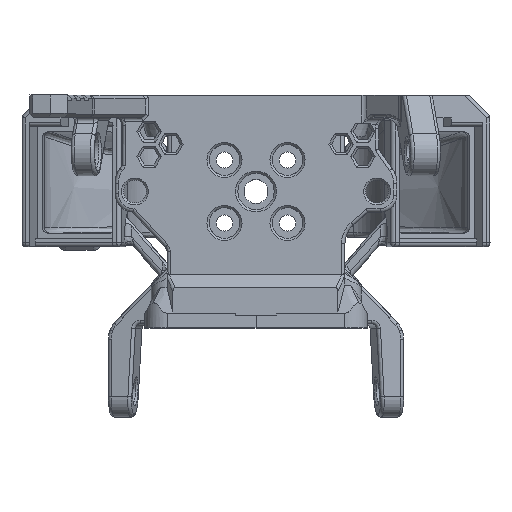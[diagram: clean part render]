
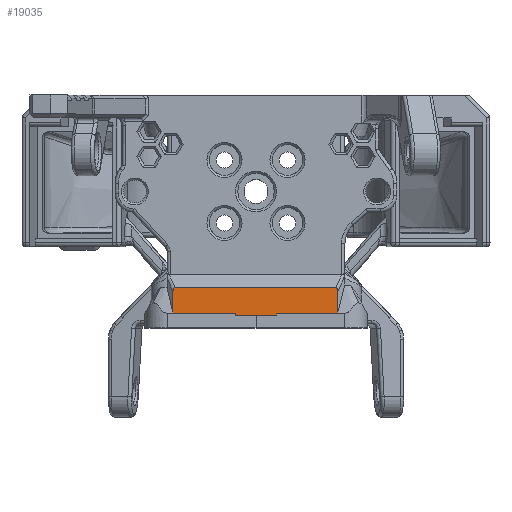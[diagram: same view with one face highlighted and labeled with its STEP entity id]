
A CAD part, top view. The second image highlights one B-rep face of the part: STEP entity #19035.
In plain terms, the highlighted planar face has unit normal (0, 0, 1).
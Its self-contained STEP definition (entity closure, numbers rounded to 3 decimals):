
#435=PLANE('',#20468);
#747=ELLIPSE('',#20464,1.919,0.746);
#750=ELLIPSE('',#20469,1.92,0.746);
#2199=FACE_OUTER_BOUND('',#3366,.T.);
#3366=EDGE_LOOP('',(#15073,#15074,#15075,#15076,#15077,#15078,#15079,#15080,
#15081,#15082));
#4522=B_SPLINE_CURVE_WITH_KNOTS('',3,(#38891,#38892,#38893,#38894),
 .UNSPECIFIED.,.F.,.F.,(4,4),(-1.184,-0.064),
 .UNSPECIFIED.);
#4523=B_SPLINE_CURVE_WITH_KNOTS('',3,(#38901,#38902,#38903,#38904),
 .UNSPECIFIED.,.F.,.F.,(4,4),(-1.097,0.),.UNSPECIFIED.);
#5484=LINE('',#37208,#6806);
#5556=LINE('',#38882,#6878);
#5558=LINE('',#38889,#6880);
#5559=LINE('',#38896,#6881);
#5560=LINE('',#38898,#6882);
#5561=LINE('',#38900,#6883);
#6806=VECTOR('',#23379,10.);
#6878=VECTOR('',#23711,10.);
#6880=VECTOR('',#23719,10.);
#6881=VECTOR('',#23720,10.);
#6882=VECTOR('',#23721,10.);
#6883=VECTOR('',#23722,10.);
#8504=VERTEX_POINT('',#37101);
#8510=VERTEX_POINT('',#37205);
#8511=VERTEX_POINT('',#37207);
#8641=VERTEX_POINT('',#38875);
#8642=VERTEX_POINT('',#38877);
#8643=VERTEX_POINT('',#38881);
#8646=VERTEX_POINT('',#38890);
#8647=VERTEX_POINT('',#38895);
#8648=VERTEX_POINT('',#38897);
#8649=VERTEX_POINT('',#38899);
#10761=EDGE_CURVE('',#8510,#8511,#5484,.T.);
#10981=EDGE_CURVE('',#8641,#8642,#747,.T.);
#10983=EDGE_CURVE('',#8643,#8642,#5556,.F.);
#10987=EDGE_CURVE('',#8504,#8641,#5558,.T.);
#10988=EDGE_CURVE('',#8646,#8504,#4522,.T.);
#10989=EDGE_CURVE('',#8647,#8646,#5559,.T.);
#10990=EDGE_CURVE('',#8647,#8648,#5560,.F.);
#10991=EDGE_CURVE('',#8649,#8648,#5561,.T.);
#10992=EDGE_CURVE('',#8511,#8649,#4523,.T.);
#10993=EDGE_CURVE('',#8643,#8510,#750,.T.);
#15073=ORIENTED_EDGE('',*,*,#10981,.F.);
#15074=ORIENTED_EDGE('',*,*,#10987,.F.);
#15075=ORIENTED_EDGE('',*,*,#10988,.F.);
#15076=ORIENTED_EDGE('',*,*,#10989,.F.);
#15077=ORIENTED_EDGE('',*,*,#10990,.T.);
#15078=ORIENTED_EDGE('',*,*,#10991,.F.);
#15079=ORIENTED_EDGE('',*,*,#10992,.F.);
#15080=ORIENTED_EDGE('',*,*,#10761,.F.);
#15081=ORIENTED_EDGE('',*,*,#10993,.F.);
#15082=ORIENTED_EDGE('',*,*,#10983,.T.);
#19035=ADVANCED_FACE('',(#2199),#435,.F.);
#20464=AXIS2_PLACEMENT_3D('',#38878,#23706,#23707);
#20468=AXIS2_PLACEMENT_3D('',#38888,#23717,#23718);
#20469=AXIS2_PLACEMENT_3D('',#38905,#23723,#23724);
#23379=DIRECTION('',(0.,-1.,0.));
#23706=DIRECTION('center_axis',(0.,0.,
-1.));
#23707=DIRECTION('ref_axis',(-0.422,0.907,0.));
#23711=DIRECTION('',(1.,0.,0.));
#23717=DIRECTION('center_axis',(0.,0.,
-1.));
#23718=DIRECTION('ref_axis',(-1.,0.,0.));
#23719=DIRECTION('',(0.,1.,0.));
#23720=DIRECTION('',(0.,1.,0.));
#23721=DIRECTION('',(-1.,-0.004,0.));
#23722=DIRECTION('',(0.,-1.,0.));
#23723=DIRECTION('center_axis',(0.,0.,
-1.));
#23724=DIRECTION('ref_axis',(0.422,0.907,0.));
#37101=CARTESIAN_POINT('',(-14.871,-39.066,-1.502));
#37205=CARTESIAN_POINT('',(14.71,-35.159,-1.502));
#37207=CARTESIAN_POINT('',(14.71,-39.067,-1.502));
#37208=CARTESIAN_POINT('',(14.71,-28.319,-1.502));
#38875=CARTESIAN_POINT('',(-14.871,-35.158,-1.502));
#38877=CARTESIAN_POINT('',(-14.492,-34.524,-1.502));
#38878=CARTESIAN_POINT('Origin',(-13.816,-36.292,-1.502));
#38881=CARTESIAN_POINT('',(14.331,-34.524,-1.502));
#38882=CARTESIAN_POINT('',(7.735,-34.524,-1.502));
#38888=CARTESIAN_POINT('Origin',(0.07,-27.896,-1.502));
#38889=CARTESIAN_POINT('',(-14.871,-28.319,-1.502));
#38890=CARTESIAN_POINT('',(-3.673,-39.093,-1.502));
#38891=CARTESIAN_POINT('Ctrl Pts',(-3.673,-39.093,
-1.502));
#38892=CARTESIAN_POINT('Ctrl Pts',(-7.406,-39.084,
-1.502));
#38893=CARTESIAN_POINT('Ctrl Pts',(-11.138,-39.075,
-1.502));
#38894=CARTESIAN_POINT('Ctrl Pts',(-14.871,-39.066,-1.502));
#38895=CARTESIAN_POINT('',(-3.673,-39.464,-1.502));
#38896=CARTESIAN_POINT('',(-3.673,-33.849,-1.502));
#38897=CARTESIAN_POINT('',(3.744,-39.438,-1.502));
#38898=CARTESIAN_POINT('',(6.477,-39.428,-1.502));
#38899=CARTESIAN_POINT('',(3.744,-39.093,-1.502));
#38900=CARTESIAN_POINT('',(3.744,-33.849,-1.502));
#38901=CARTESIAN_POINT('Ctrl Pts',(14.71,-39.067,-1.502));
#38902=CARTESIAN_POINT('Ctrl Pts',(11.054,-39.076,-1.502));
#38903=CARTESIAN_POINT('Ctrl Pts',(7.399,-39.084,-1.502));
#38904=CARTESIAN_POINT('Ctrl Pts',(3.744,-39.093,-1.502));
#38905=CARTESIAN_POINT('Origin',(13.654,-36.293,-1.502));
